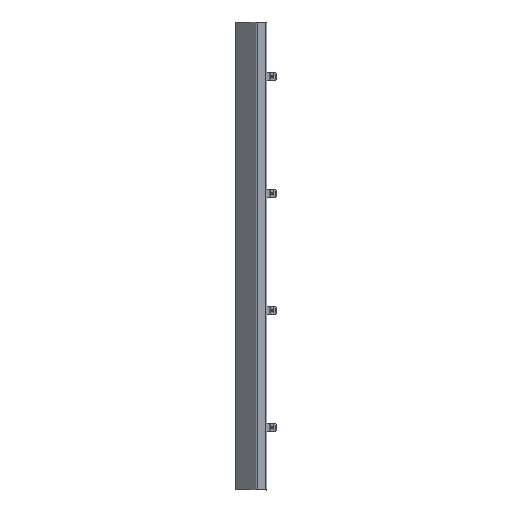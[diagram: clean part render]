
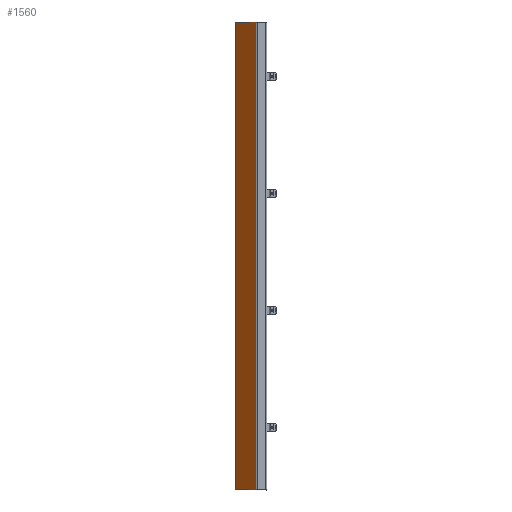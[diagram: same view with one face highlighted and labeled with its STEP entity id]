
A CAD part, left-side view. The second image highlights one B-rep face of the part: STEP entity #1560.
In plain terms, the highlighted planar face has unit normal (-0.707, 0.707, 0).
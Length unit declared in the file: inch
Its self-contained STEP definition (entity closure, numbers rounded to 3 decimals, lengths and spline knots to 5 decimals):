
#9 = CARTESIAN_POINT ( 'NONE',  ( 1.77132, 3.10845, 24. ) ) ;
#134 = CARTESIAN_POINT ( 'NONE',  ( -0.30607, 1.03107, 24. ) ) ;
#248 = DIRECTION ( 'NONE',  ( 0.707, 0.707, 0. ) ) ;
#623 = VERTEX_POINT ( 'NONE', #1212 ) ;
#638 = ORIENTED_EDGE ( 'NONE', *, *, #4780, .T. ) ;
#722 = PLANE ( 'NONE',  #5509 ) ;
#858 = DIRECTION ( 'NONE',  ( -0.707, -0.707, 0. ) ) ;
#1212 = CARTESIAN_POINT ( 'NONE',  ( -0.30607, 1.03107, -24. ) ) ;
#1528 = VERTEX_POINT ( 'NONE', #3529 ) ;
#1560 = ADVANCED_FACE ( 'NONE', ( #1608 ), #722, .T. ) ;
#1608 = FACE_OUTER_BOUND ( 'NONE', #5959, .T. ) ;
#1961 = DIRECTION ( 'NONE',  ( 0., 0., 1. ) ) ;
#2006 = ORIENTED_EDGE ( 'NONE', *, *, #4088, .F. ) ;
#2018 = LINE ( 'NONE', #5399, #5561 ) ;
#2083 = VERTEX_POINT ( 'NONE', #134 ) ;
#2450 = VERTEX_POINT ( 'NONE', #9 ) ;
#2613 = DIRECTION ( 'NONE',  ( -0.707, 0.707, 0. ) ) ;
#2775 = DIRECTION ( 'NONE',  ( 0., 0., 1. ) ) ;
#3117 = DIRECTION ( 'NONE',  ( -0.707, -0.707, 0. ) ) ;
#3352 = VECTOR ( 'NONE', #2775, 39.37008 ) ;
#3358 = VECTOR ( 'NONE', #1961, 39.37008 ) ;
#3529 = CARTESIAN_POINT ( 'NONE',  ( 1.77132, 3.10845, -24. ) ) ;
#3651 = CARTESIAN_POINT ( 'NONE',  ( 1.77132, 3.10845, -24. ) ) ;
#3829 = LINE ( 'NONE', #5760, #3352 ) ;
#4088 = EDGE_CURVE ( 'NONE', #1528, #2450, #3829, .T. ) ;
#4124 = LINE ( 'NONE', #3651, #5781 ) ;
#4485 = ORIENTED_EDGE ( 'NONE', *, *, #4948, .F. ) ;
#4586 = CARTESIAN_POINT ( 'NONE',  ( -0.65303, 0.6841, 0. ) ) ;
#4780 = EDGE_CURVE ( 'NONE', #623, #2083, #4897, .T. ) ;
#4897 = LINE ( 'NONE', #5847, #3358 ) ;
#4948 = EDGE_CURVE ( 'NONE', #2450, #2083, #2018, .T. ) ;
#5399 = CARTESIAN_POINT ( 'NONE',  ( -0.32803, 1.0091, 24. ) ) ;
#5509 = AXIS2_PLACEMENT_3D ( 'NONE', #4586, #2613, #3117 ) ;
#5561 = VECTOR ( 'NONE', #858, 39.37008 ) ;
#5652 = ORIENTED_EDGE ( 'NONE', *, *, #6065, .F. ) ;
#5760 = CARTESIAN_POINT ( 'NONE',  ( 1.77132, 3.10845, 24. ) ) ;
#5781 = VECTOR ( 'NONE', #248, 39.37008 ) ;
#5847 = CARTESIAN_POINT ( 'NONE',  ( -0.30607, 1.03107, 0. ) ) ;
#5959 = EDGE_LOOP ( 'NONE', ( #5652, #638, #4485, #2006 ) ) ;
#6065 = EDGE_CURVE ( 'NONE', #623, #1528, #4124, .T. ) ;
